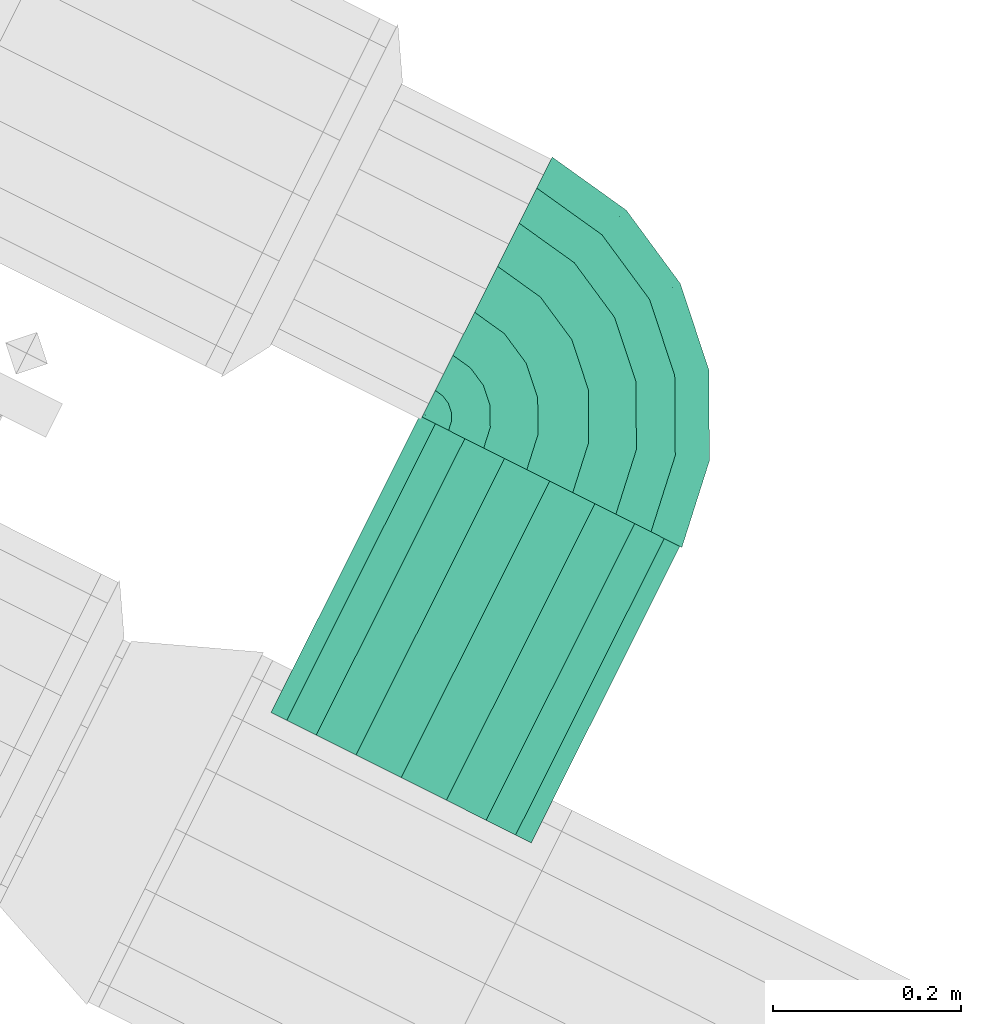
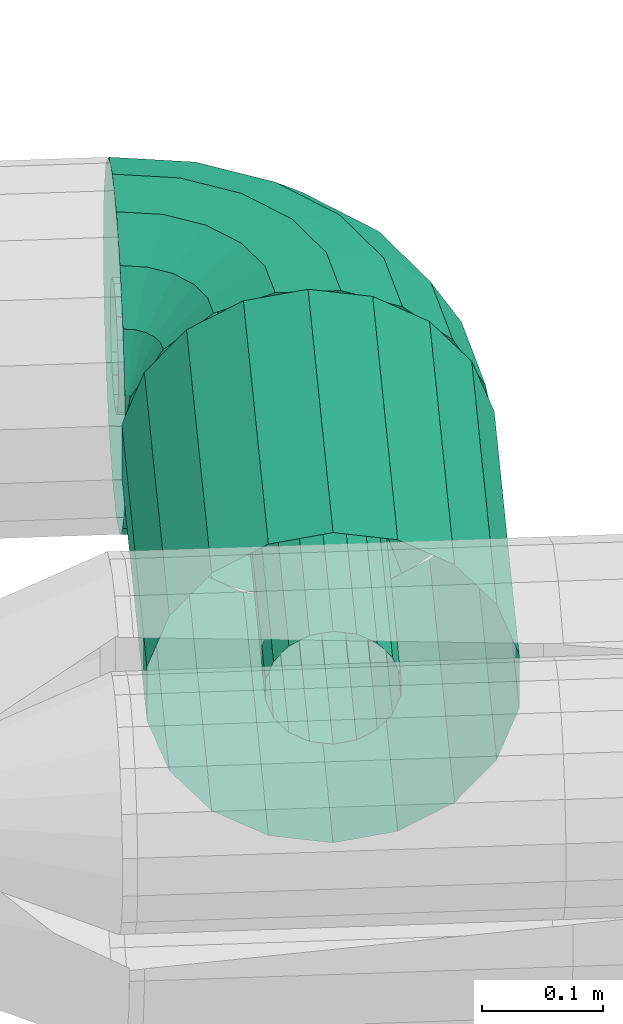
# One storey, part 32 of 152: 2 flow segments.
"""IFC2X3 building model written with IfcOpenShell, lengths in metres."""

from ifc_helpers import new_model, si_unit, derived_unit, direction, frame, origin, place, context, subcontext, project, spatial, face_set, surface_model, source, transform, mapped, material, type_object, type_shapes, element, save


model = new_model("IFC2X3")

# Units and contexts
model_context = context("Model", 3, precision=5.2338327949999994e-05, world=origin(), true_north=direction((0.0, 1.0)))
body_context = subcontext(model_context, "Body", "Model", "MODEL_VIEW")
ifc_project = project(units=[si_unit("LENGTHUNIT", "METRE"), si_unit("AREAUNIT", "SQUARE_METRE"), si_unit("VOLUMEUNIT", "CUBIC_METRE"), si_unit("MASSUNIT", "GRAM", prefix="KILO"), si_unit("PLANEANGLEUNIT", "RADIAN"), derived_unit("THERMALTRANSMITTANCEUNIT", [(si_unit("MASSUNIT", "GRAM", prefix="KILO"), 1), (si_unit("THERMODYNAMICTEMPERATUREUNIT", "KELVIN"), -1), (si_unit("TIMEUNIT", "SECOND"), -3)])], contexts=[model_context])

# Site, building, storey
site_placement = place(None, frame((0.0, 0.0, 0.0), z_axis=(0.0, 0.0, 1.0), x_axis=(0.8939966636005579, -0.4480736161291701, 0.0)))
site = spatial("IfcSite", under=ifc_project, at=site_placement, Name="Default", CompositionType="ELEMENT")
building_placement = place(site_placement, origin())
building = spatial("IfcBuilding", under=site, at=building_placement, CompositionType="ELEMENT")
storey_placement = place(building_placement, frame((0.0, 0.0, 2.7499999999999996)))
storey = spatial("IfcBuildingStorey", under=building, at=storey_placement, Name="1. Obergeschoss", CompositionType="ELEMENT", Elevation=2.7499999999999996)

# Flow segments
ifc_material = material(Name="IfcSurfaceStyle #9317")
distribution_element_type_1 = type_object("IfcDistributionElementType", Name="Rohrbogen 266739:Rohrbogen 266739", material=ifc_material)
shared_shape_1 = source(origin(), body_context, "Body", "SurfaceModel", [
    surface_model("IfcFaceBasedSurfaceModel", [(13.562559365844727, 6.564337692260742, 5.63564089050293), (13.497928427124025, 6.574574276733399, 5.63564089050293), (13.561494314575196, 6.561059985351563, 5.655187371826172), (13.497928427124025, 6.571127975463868, 5.655187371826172), (13.620863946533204, 6.534630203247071, 5.63564089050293), (13.618837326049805, 6.531842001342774, 5.655187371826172), (13.667134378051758, 6.488359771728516, 5.63564089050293), (13.664346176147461, 6.48633373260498, 5.655187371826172), (13.69684186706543, 6.430055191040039, 5.63564089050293), (13.693564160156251, 6.428990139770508, 5.655187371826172), (13.707078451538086, 6.365424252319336, 5.63564089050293), (13.703632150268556, 6.365424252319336, 5.655187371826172), (13.497928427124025, 6.561204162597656, 5.672375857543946), (13.558427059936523, 6.5516216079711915, 5.672375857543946), (13.613003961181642, 6.52381342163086, 5.672375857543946), (13.656317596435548, 6.48050094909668, 5.672375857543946), (13.684125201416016, 6.4259234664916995, 5.672375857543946), (13.693707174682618, 6.365424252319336, 5.672375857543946), (13.553728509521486, 6.537161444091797, 5.6851343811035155), (13.497928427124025, 6.545999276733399, 5.6851343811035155), (13.604067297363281, 6.511512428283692, 5.6851343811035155), (13.644016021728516, 6.4715637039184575, 5.6851343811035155), (13.669665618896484, 6.421225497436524, 5.6851343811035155), (13.678503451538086, 6.365424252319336, 5.6851343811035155), (13.547964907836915, 6.519423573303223, 5.691922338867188), (13.497928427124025, 6.527348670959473, 5.691922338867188), (13.59310517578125, 6.49642381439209, 5.691922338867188), (13.628927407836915, 6.460601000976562, 5.691922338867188), (13.651927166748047, 6.415461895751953, 5.691922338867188), (13.659852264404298, 6.365424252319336, 5.691922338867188), (13.497928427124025, 6.507500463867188, 5.691922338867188), (13.541831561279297, 6.500546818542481, 5.691922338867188), (13.581438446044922, 6.480366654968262, 5.691922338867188), (13.612870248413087, 6.448934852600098, 5.691922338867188), (13.633050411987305, 6.409328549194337, 5.691922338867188), (13.640004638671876, 6.365424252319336, 5.691922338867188), (13.536069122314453, 6.4828083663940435, 5.6851343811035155), (13.497928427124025, 6.488849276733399, 5.6851343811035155), (13.570475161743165, 6.4652774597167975, 5.6851343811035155), (13.597781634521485, 6.437972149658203, 5.6851343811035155), (13.615311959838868, 6.403564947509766, 5.6851343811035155), (13.621353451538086, 6.365424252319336, 5.6851343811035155), (13.531370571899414, 6.468348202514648, 5.672375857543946), (13.497928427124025, 6.473644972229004, 5.672375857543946), (13.561538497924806, 6.45297646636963, 5.672375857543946), (13.585480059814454, 6.42903490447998, 5.672375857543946), (13.600852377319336, 6.398866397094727, 5.672375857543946), (13.606148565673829, 6.365424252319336, 5.672375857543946), (13.528303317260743, 6.458909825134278, 5.655187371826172), (13.497928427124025, 6.463721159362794, 5.655187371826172), (13.555705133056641, 6.444947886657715, 5.655187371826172), (13.577451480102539, 6.423201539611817, 5.655187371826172), (13.591413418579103, 6.3957997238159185, 5.655187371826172), (13.596224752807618, 6.365424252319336, 5.655187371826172), (13.497928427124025, 6.460274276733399, 5.63564089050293), (13.527238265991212, 6.455632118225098, 5.63564089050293), (13.553679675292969, 6.442159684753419, 5.63564089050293), (13.574663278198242, 6.421176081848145, 5.63564089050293), (13.588135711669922, 6.394734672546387, 5.63564089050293), (13.592778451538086, 6.365424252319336, 5.63564089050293), (13.528303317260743, 6.458909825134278, 5.616094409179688), (13.497928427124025, 6.463721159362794, 5.616094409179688), (13.555705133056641, 6.444947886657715, 5.616094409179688), (13.577451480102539, 6.423201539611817, 5.616094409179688), (13.591413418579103, 6.3957997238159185, 5.616094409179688), (13.596224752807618, 6.365424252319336, 5.616094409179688), (13.497928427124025, 6.473644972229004, 5.598905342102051), (13.531370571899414, 6.468348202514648, 5.598905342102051), (13.561538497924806, 6.45297646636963, 5.598905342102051), (13.585480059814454, 6.42903490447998, 5.598905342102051), (13.600852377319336, 6.398866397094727, 5.598905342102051), (13.606148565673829, 6.365424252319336, 5.598905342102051), (13.497928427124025, 6.488849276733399, 5.586147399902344), (13.536069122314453, 6.4828083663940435, 5.586147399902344), (13.570475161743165, 6.4652774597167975, 5.586147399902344), (13.597781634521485, 6.437972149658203, 5.586147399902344), (13.615311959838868, 6.403564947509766, 5.586147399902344), (13.621353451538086, 6.365424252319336, 5.586147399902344), (13.497928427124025, 6.507500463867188, 5.579358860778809), (13.541831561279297, 6.500546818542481, 5.579358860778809), (13.581438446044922, 6.480366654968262, 5.579358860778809), (13.612870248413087, 6.448934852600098, 5.579358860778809), (13.633050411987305, 6.409328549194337, 5.579358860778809), (13.640004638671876, 6.365424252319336, 5.579358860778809), (13.547964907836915, 6.519423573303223, 5.579358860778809), (13.497928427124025, 6.527348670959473, 5.579358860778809), (13.59310517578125, 6.49642381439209, 5.579358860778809), (13.628927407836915, 6.460601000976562, 5.579358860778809), (13.651927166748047, 6.415461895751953, 5.579358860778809), (13.659852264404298, 6.365424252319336, 5.579358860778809), (13.553728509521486, 6.537161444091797, 5.586147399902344), (13.497928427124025, 6.545999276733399, 5.586147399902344), (13.604067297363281, 6.511512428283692, 5.586147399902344), (13.644016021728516, 6.4715637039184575, 5.586147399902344), (13.669665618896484, 6.421225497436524, 5.586147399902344), (13.678503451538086, 6.365424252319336, 5.586147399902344), (13.497928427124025, 6.561204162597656, 5.598905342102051), (13.558427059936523, 6.5516216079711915, 5.598905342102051), (13.613003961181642, 6.52381342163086, 5.598905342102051), (13.656317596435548, 6.48050094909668, 5.598905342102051), (13.684125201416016, 6.4259234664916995, 5.598905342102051), (13.693707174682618, 6.365424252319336, 5.598905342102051), (13.561494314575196, 6.561059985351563, 5.616094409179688), (13.497928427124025, 6.571127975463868, 5.616094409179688), (13.618837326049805, 6.531842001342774, 5.616094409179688), (13.664346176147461, 6.48633373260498, 5.616094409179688), (13.59346096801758, 6.659443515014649, 5.63564089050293), (13.497928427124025, 6.67457456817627, 5.63564089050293), (13.497928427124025, 6.665097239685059, 5.689389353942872), (13.590532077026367, 6.6504301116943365, 5.689389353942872), (13.679641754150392, 6.615532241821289, 5.63564089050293), (13.67407116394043, 6.607864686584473, 5.689389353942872), (13.74803525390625, 6.5471381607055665, 5.63564089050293), (13.740368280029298, 6.541567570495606, 5.689389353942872), (13.791947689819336, 6.460956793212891, 5.63564089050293), (13.782934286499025, 6.458028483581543, 5.689389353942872), (13.807078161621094, 6.365424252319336, 5.63564089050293), (13.797600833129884, 6.365424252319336, 5.689389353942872), (13.58209887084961, 6.624477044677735, 5.736655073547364), (13.497928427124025, 6.637808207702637, 5.736655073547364), (13.658031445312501, 6.585787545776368, 5.736655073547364), (13.718291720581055, 6.525527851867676, 5.736655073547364), (13.756980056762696, 6.449595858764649, 5.736655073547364), (13.77031180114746, 6.365424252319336, 5.736655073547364), (13.497928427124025, 6.595999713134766, 5.771736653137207), (13.569179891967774, 6.58471435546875, 5.771736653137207), (13.633456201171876, 6.5519634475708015, 5.771736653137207), (13.684467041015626, 6.500953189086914, 5.771736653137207), (13.717218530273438, 6.43667629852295, 5.771736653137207), (13.728502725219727, 6.365424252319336, 5.771736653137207), (13.553330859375, 6.535938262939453, 5.790403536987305), (13.497928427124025, 6.544713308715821, 5.790403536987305), (13.603311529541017, 6.510472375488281, 5.790403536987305), (13.642975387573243, 6.470807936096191, 5.790403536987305), (13.668442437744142, 6.420827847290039, 5.790403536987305), (13.677217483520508, 6.365424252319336, 5.790403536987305), (13.536465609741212, 6.48403212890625, 5.790403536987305), (13.497928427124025, 6.490135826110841, 5.790403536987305), (13.571232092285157, 6.46631809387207, 5.790403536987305), (13.598821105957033, 6.4387279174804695, 5.790403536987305), (13.616535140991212, 6.403962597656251, 5.790403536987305), (13.622639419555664, 6.365424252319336, 5.790403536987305), (13.497928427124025, 6.438849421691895, 5.771736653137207), (13.520617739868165, 6.435256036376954, 5.771736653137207), (13.541086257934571, 6.424826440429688, 5.771736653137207), (13.557330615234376, 6.408582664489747, 5.771736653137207), (13.567759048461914, 6.38811414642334, 5.771736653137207), (13.571353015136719, 6.365424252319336, 5.771736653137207), (13.507697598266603, 6.395493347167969, 5.736655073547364), (13.497928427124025, 6.397040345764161, 5.736655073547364), (13.516512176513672, 6.391002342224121, 5.736655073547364), (13.523505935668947, 6.384008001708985, 5.736655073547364), (13.52799635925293, 6.375194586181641, 5.736655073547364), (13.529543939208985, 6.365424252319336, 5.736655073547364), (13.497928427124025, 6.369751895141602, 5.689389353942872), (13.49926555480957, 6.369539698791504, 5.689389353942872), (13.500471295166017, 6.368925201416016, 5.689389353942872), (13.501429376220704, 6.367968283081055, 5.689389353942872), (13.502043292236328, 6.366761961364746, 5.689389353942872), (13.502254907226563, 6.365424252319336, 5.689389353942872), (13.497928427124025, 6.365424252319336, 5.66484666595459), (13.498671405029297, 6.365424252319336, 5.665514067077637), (13.497928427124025, 6.365424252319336, 5.60643511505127), (13.498671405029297, 6.365424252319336, 5.60576713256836), (13.49926555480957, 6.369539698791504, 5.581892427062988), (13.497928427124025, 6.369751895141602, 5.581892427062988), (13.500471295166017, 6.368925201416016, 5.581892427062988), (13.501429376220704, 6.367968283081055, 5.581892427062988), (13.502043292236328, 6.366761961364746, 5.581892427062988), (13.502254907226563, 6.365424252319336, 5.581892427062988), (13.497928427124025, 6.397040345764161, 5.5346267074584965), (13.507697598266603, 6.395493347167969, 5.5346267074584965), (13.516512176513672, 6.391002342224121, 5.5346267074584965), (13.523505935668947, 6.384008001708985, 5.5346267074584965), (13.52799635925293, 6.375194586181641, 5.5346267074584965), (13.529543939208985, 6.365424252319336, 5.5346267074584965), (13.497928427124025, 6.438849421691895, 5.499545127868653), (13.520617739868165, 6.435256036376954, 5.499545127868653), (13.541086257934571, 6.424826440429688, 5.499545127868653), (13.557330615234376, 6.408582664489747, 5.499545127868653), (13.567759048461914, 6.38811414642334, 5.499545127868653), (13.571353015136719, 6.365424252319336, 5.499545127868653), (13.497928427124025, 6.490135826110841, 5.480878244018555), (13.536465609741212, 6.48403212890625, 5.480878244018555), (13.571232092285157, 6.46631809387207, 5.480878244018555), (13.598821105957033, 6.4387279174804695, 5.480878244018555), (13.616535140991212, 6.403962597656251, 5.480878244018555), (13.622639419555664, 6.365424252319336, 5.480878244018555), (13.497928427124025, 6.544713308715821, 5.480878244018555), (13.553330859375, 6.535938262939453, 5.480878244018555), (13.603311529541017, 6.510472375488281, 5.480878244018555), (13.642975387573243, 6.470807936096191, 5.480878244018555), (13.668442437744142, 6.420827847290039, 5.480878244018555), (13.677217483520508, 6.365424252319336, 5.480878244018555), (13.497928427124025, 6.595999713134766, 5.499545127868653), (13.569179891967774, 6.58471435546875, 5.499545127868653), (13.633456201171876, 6.5519634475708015, 5.499545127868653), (13.684467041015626, 6.500953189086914, 5.499545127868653), (13.717218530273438, 6.43667629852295, 5.499545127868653), (13.728502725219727, 6.365424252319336, 5.499545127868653), (13.497928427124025, 6.637808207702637, 5.5346267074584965), (13.58209887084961, 6.624477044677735, 5.5346267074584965), (13.658031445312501, 6.585787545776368, 5.5346267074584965), (13.718291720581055, 6.525527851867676, 5.5346267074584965), (13.756980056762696, 6.449595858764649, 5.5346267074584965), (13.77031180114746, 6.365424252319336, 5.5346267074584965), (13.497928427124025, 6.665097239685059, 5.581892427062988), (13.590532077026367, 6.6504301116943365, 5.581892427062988), (13.67407116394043, 6.607864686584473, 5.581892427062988), (13.740368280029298, 6.541567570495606, 5.581892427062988), (13.782934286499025, 6.458028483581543, 5.581892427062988), (13.797600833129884, 6.365424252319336, 5.581892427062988), (13.693564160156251, 6.428990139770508, 5.616094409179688), (13.703632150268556, 6.365424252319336, 5.616094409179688)], [face_set([[[0, 1, 2]], [[3, 2, 1]], [[4, 0, 2]], [[2, 5, 4]], [[6, 4, 7]], [[5, 7, 4]], [[8, 6, 7]], [[7, 9, 8]], [[10, 8, 9]], [[9, 11, 10]], [[2, 3, 12]], [[12, 13, 2]], [[5, 2, 14]], [[13, 14, 2]], [[7, 5, 15]], [[14, 15, 5]], [[9, 7, 16]], [[15, 16, 7]], [[11, 9, 17]], [[16, 17, 9]], [[13, 12, 18]], [[19, 18, 12]], [[14, 13, 20]], [[18, 20, 13]], [[15, 14, 21]], [[20, 21, 14]], [[16, 15, 21]], [[21, 22, 16]], [[17, 16, 22]], [[22, 23, 17]], [[18, 19, 24]], [[25, 24, 19]], [[20, 18, 24]], [[24, 26, 20]], [[21, 20, 26]], [[26, 27, 21]], [[22, 21, 27]], [[27, 28, 22]], [[23, 22, 28]], [[28, 29, 23]], [[24, 25, 30]], [[30, 31, 24]], [[26, 24, 32]], [[31, 32, 24]], [[27, 26, 32]], [[32, 33, 27]], [[28, 27, 33]], [[33, 34, 28]], [[29, 28, 35]], [[34, 35, 28]], [[31, 30, 36]], [[37, 36, 30]], [[32, 31, 38]], [[36, 38, 31]], [[33, 32, 38]], [[38, 39, 33]], [[34, 33, 40]], [[39, 40, 33]], [[35, 34, 41]], [[40, 41, 34]], [[36, 37, 42]], [[43, 42, 37]], [[38, 36, 44]], [[42, 44, 36]], [[39, 38, 45]], [[44, 45, 38]], [[40, 39, 46]], [[45, 46, 39]], [[41, 40, 47]], [[46, 47, 40]], [[42, 43, 48]], [[49, 48, 43]], [[44, 42, 48]], [[48, 50, 44]], [[45, 44, 50]], [[50, 51, 45]], [[46, 45, 51]], [[51, 52, 46]], [[47, 46, 52]], [[52, 53, 47]], [[48, 49, 54]], [[54, 55, 48]], [[50, 48, 55]], [[55, 56, 50]], [[51, 50, 56]], [[56, 57, 51]], [[52, 51, 57]], [[57, 58, 52]], [[53, 52, 58]], [[58, 59, 53]], [[55, 54, 60]], [[61, 60, 54]], [[56, 55, 60]], [[60, 62, 56]], [[57, 56, 63]], [[62, 63, 56]], [[58, 57, 64]], [[63, 64, 57]], [[59, 58, 65]], [[64, 65, 58]], [[60, 61, 66]], [[66, 67, 60]], [[62, 60, 68]], [[67, 68, 60]], [[63, 62, 69]], [[68, 69, 62]], [[64, 63, 69]], [[69, 70, 64]], [[65, 64, 71]], [[70, 71, 64]], [[67, 66, 72]], [[72, 73, 67]], [[68, 67, 73]], [[73, 74, 68]], [[69, 68, 75]], [[74, 75, 68]], [[70, 69, 75]], [[75, 76, 70]], [[71, 70, 77]], [[76, 77, 70]], [[73, 72, 78]], [[78, 79, 73]], [[74, 73, 79]], [[79, 80, 74]], [[75, 74, 81]], [[80, 81, 74]], [[76, 75, 81]], [[81, 82, 76]], [[77, 76, 82]], [[82, 83, 77]], [[79, 78, 84]], [[85, 84, 78]], [[80, 79, 84]], [[84, 86, 80]], [[81, 80, 87]], [[86, 87, 80]], [[82, 81, 88]], [[87, 88, 81]], [[83, 82, 88]], [[88, 89, 83]], [[84, 85, 90]], [[91, 90, 85]], [[86, 84, 92]], [[90, 92, 84]], [[87, 86, 93]], [[92, 93, 86]], [[88, 87, 94]], [[93, 94, 87]], [[89, 88, 95]], [[94, 95, 88]], [[90, 91, 96]], [[96, 97, 90]], [[92, 90, 97]], [[97, 98, 92]], [[93, 92, 98]], [[98, 99, 93]], [[94, 93, 100]], [[99, 100, 93]], [[95, 94, 101]], [[100, 101, 94]], [[97, 96, 102]], [[103, 102, 96]], [[98, 97, 102]], [[102, 104, 98]], [[99, 98, 104]], [[104, 105, 99]], [[102, 103, 1]], [[1, 0, 102]], [[104, 102, 4]], [[0, 4, 102]], [[105, 104, 6]], [[4, 6, 104]], [[106, 107, 108]], [[108, 109, 106]], [[110, 106, 111]], [[109, 111, 106]], [[112, 110, 113]], [[111, 113, 110]], [[114, 112, 113]], [[113, 115, 114]], [[116, 114, 115]], [[115, 117, 116]], [[109, 108, 118]], [[119, 118, 108]], [[111, 109, 120]], [[118, 120, 109]], [[113, 111, 120]], [[120, 121, 113]], [[115, 113, 121]], [[121, 122, 115]], [[117, 115, 122]], [[122, 123, 117]], [[118, 119, 124]], [[124, 125, 118]], [[120, 118, 125]], [[125, 126, 120]], [[121, 120, 126]], [[126, 127, 121]], [[122, 121, 127]], [[127, 128, 122]], [[123, 122, 128]], [[128, 129, 123]], [[125, 124, 130]], [[131, 130, 124]], [[126, 125, 132]], [[130, 132, 125]], [[127, 126, 132]], [[132, 133, 127]], [[128, 127, 133]], [[133, 134, 128]], [[129, 128, 135]], [[134, 135, 128]], [[130, 131, 136]], [[137, 136, 131]], [[132, 130, 136]], [[136, 138, 132]], [[133, 132, 138]], [[138, 139, 133]], [[134, 133, 139]], [[139, 140, 134]], [[135, 134, 140]], [[140, 141, 135]], [[136, 137, 142]], [[142, 143, 136]], [[138, 136, 143]], [[143, 144, 138]], [[139, 138, 144]], [[144, 145, 139]], [[140, 139, 145]], [[145, 146, 140]], [[141, 140, 146]], [[146, 147, 141]], [[143, 142, 148]], [[149, 148, 142]], [[144, 143, 150]], [[148, 150, 143]], [[145, 144, 151]], [[150, 151, 144]], [[146, 145, 151]], [[151, 152, 146]], [[147, 146, 152]], [[152, 153, 147]], [[148, 149, 154]], [[154, 155, 148]], [[150, 148, 156]], [[155, 156, 148]], [[151, 150, 156]], [[156, 157, 151]], [[152, 151, 157]], [[157, 158, 152]], [[153, 152, 158]], [[158, 159, 153]], [[160, 155, 161]], [[160, 161, 154]], [[155, 154, 161]], [[156, 155, 160]], [[157, 156, 160]], [[158, 157, 160]], [[159, 158, 160]], [[162, 163, 164]], [[165, 164, 163]], [[163, 162, 165]], [[164, 166, 162]], [[162, 166, 167]], [[167, 168, 162]], [[168, 169, 162]], [[164, 165, 170]], [[170, 171, 164]], [[166, 164, 171]], [[171, 172, 166]], [[167, 166, 173]], [[172, 173, 166]], [[168, 167, 174]], [[173, 174, 167]], [[169, 168, 175]], [[174, 175, 168]], [[171, 170, 176]], [[176, 177, 171]], [[172, 171, 177]], [[177, 178, 172]], [[173, 172, 179]], [[178, 179, 172]], [[174, 173, 180]], [[179, 180, 173]], [[175, 174, 180]], [[180, 181, 175]], [[177, 176, 182]], [[182, 183, 177]], [[178, 177, 184]], [[183, 184, 177]], [[179, 178, 184]], [[184, 185, 179]], [[180, 179, 186]], [[185, 186, 179]], [[181, 180, 186]], [[186, 187, 181]], [[183, 182, 188]], [[188, 189, 183]], [[184, 183, 190]], [[189, 190, 183]], [[185, 184, 191]], [[190, 191, 184]], [[186, 185, 192]], [[191, 192, 185]], [[187, 186, 193]], [[192, 193, 186]], [[189, 188, 194]], [[194, 195, 189]], [[190, 189, 195]], [[195, 196, 190]], [[191, 190, 197]], [[196, 197, 190]], [[192, 191, 198]], [[197, 198, 191]], [[193, 192, 198]], [[198, 199, 193]], [[195, 194, 200]], [[200, 201, 195]], [[196, 195, 202]], [[201, 202, 195]], [[197, 196, 203]], [[202, 203, 196]], [[198, 197, 204]], [[203, 204, 197]], [[199, 198, 205]], [[204, 205, 198]], [[201, 200, 206]], [[206, 207, 201]], [[202, 201, 208]], [[207, 208, 201]], [[203, 202, 208]], [[208, 209, 203]], [[204, 203, 210]], [[209, 210, 203]], [[205, 204, 211]], [[210, 211, 204]], [[207, 206, 107]], [[107, 106, 207]], [[208, 207, 110]], [[106, 110, 207]], [[209, 208, 110]], [[110, 112, 209]], [[210, 209, 114]], [[112, 114, 209]], [[211, 210, 116]], [[114, 116, 210]], [[100, 99, 212]], [[105, 212, 99]], [[101, 100, 213]], [[212, 213, 100]], [[212, 105, 6]], [[6, 8, 212]], [[213, 212, 8]], [[8, 10, 213]]])]),
])
type_shapes(distribution_element_type_1, [shared_shape_1])
flow_segment_1_placement = place(storey_placement, frame((0.0, 0.0, -2.7499999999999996)))
element("IfcFlowSegment", 1, at=flow_segment_1_placement, inside=storey, type_object=distribution_element_type_1, material=ifc_material, Name="Rohrbogen", ObjectType="Rohrbogen", context=body_context, shape_type="MappedRepresentation", body=[
    mapped(shared_shape_1, transform((0.0, 0.0, 0.0), scale=1.0)),
])
distribution_element_type_2 = type_object("IfcDistributionElementType", Name="Stahlrohr nach DIN 2448 266762:Stahlrohr nach DIN 2448 266762", material=ifc_material)
shared_shape_2 = source(origin(), body_context, "Body", "SurfaceModel", [
    surface_model("IfcFaceBasedSurfaceModel", [(13.649928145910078, 6.012787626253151, 5.578490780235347), (13.630381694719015, 6.012787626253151, 5.581937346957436), (13.630381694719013, 6.365424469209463, 5.581937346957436), (13.649928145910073, 6.365424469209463, 5.578490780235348), (13.613192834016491, 6.012787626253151, 5.5918613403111), (13.61319283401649, 6.365424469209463, 5.591861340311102), (13.600434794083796, 6.012787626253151, 5.607065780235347), (13.60043479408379, 6.365424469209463, 5.6070657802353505), (13.593646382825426, 6.012787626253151, 5.6257167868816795), (13.593646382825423, 6.365424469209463, 5.6257167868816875), (13.593646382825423, 6.012787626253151, 5.6455647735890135), (13.593646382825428, 6.365424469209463, 5.645564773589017), (13.600434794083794, 6.012787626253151, 5.66421578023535), (13.600434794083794, 6.365424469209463, 5.66421578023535), (13.61319283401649, 6.012787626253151, 5.679420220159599), (13.61319283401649, 6.365424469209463, 5.6794202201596), (13.630381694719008, 6.012787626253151, 5.689344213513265), (13.630381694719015, 6.365424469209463, 5.689344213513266), (13.64992814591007, 6.012787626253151, 5.692790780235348), (13.649928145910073, 6.365424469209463, 5.692790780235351), (13.669474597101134, 6.012787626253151, 5.689344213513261), (13.669474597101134, 6.365424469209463, 5.689344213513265), (13.686663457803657, 6.012787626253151, 5.679420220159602), (13.686663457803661, 6.365424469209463, 5.679420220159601), (13.699421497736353, 6.012787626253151, 5.664215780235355), (13.699421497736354, 6.365424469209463, 5.664215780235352), (13.70620990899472, 6.012787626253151, 5.6455647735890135), (13.70620990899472, 6.365424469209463, 5.645564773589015), (13.706209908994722, 6.012787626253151, 5.625716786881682), (13.706209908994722, 6.365424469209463, 5.625716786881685), (13.699421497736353, 6.012787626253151, 5.60706578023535), (13.699421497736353, 6.365424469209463, 5.607065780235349), (13.686663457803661, 6.012787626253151, 5.591861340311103), (13.686663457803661, 6.365424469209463, 5.591861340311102), (13.669474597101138, 6.012787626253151, 5.5819373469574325), (13.669474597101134, 6.365424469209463, 5.581937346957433), (13.64992814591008, 6.012787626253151, 5.478490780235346), (13.59617968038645, 6.012787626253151, 5.487968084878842), (13.596179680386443, 6.365424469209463, 5.487968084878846), (13.64992814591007, 6.365424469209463, 5.47849078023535), (13.54891407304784, 6.012787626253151, 5.515256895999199), (13.548914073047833, 6.365424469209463, 5.5152568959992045), (13.51383225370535, 6.012787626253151, 5.557065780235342), (13.513832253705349, 6.365424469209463, 5.557065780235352), (13.495165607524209, 6.012787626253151, 5.608351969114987), (13.495165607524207, 6.365424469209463, 5.6083519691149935), (13.495165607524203, 6.012787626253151, 5.662929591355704), (13.495165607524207, 6.365424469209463, 5.662929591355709), (13.513832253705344, 6.012787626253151, 5.714215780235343), (13.513832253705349, 6.365424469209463, 5.714215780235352), (13.548914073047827, 6.012787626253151, 5.756024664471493), (13.548914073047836, 6.365424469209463, 5.756024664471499), (13.596179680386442, 6.012787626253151, 5.783313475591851), (13.596179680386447, 6.365424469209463, 5.783313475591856), (13.649928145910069, 6.012787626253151, 5.792790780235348), (13.649928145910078, 6.365424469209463, 5.792790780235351), (13.7036766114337, 6.012787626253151, 5.783313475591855), (13.703676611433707, 6.365424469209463, 5.783313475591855), (13.75094221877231, 6.012787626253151, 5.756024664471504), (13.750942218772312, 6.365424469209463, 5.756024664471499), (13.786024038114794, 6.012787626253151, 5.714215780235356), (13.7860240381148, 6.365424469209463, 5.71421578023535), (13.804690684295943, 6.012787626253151, 5.662929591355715), (13.804690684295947, 6.365424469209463, 5.662929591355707), (13.804690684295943, 6.012787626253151, 5.608351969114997), (13.804690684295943, 6.365424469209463, 5.608351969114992), (13.786024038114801, 6.012787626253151, 5.557065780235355), (13.7860240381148, 6.365424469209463, 5.557065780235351), (13.750942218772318, 6.012787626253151, 5.515256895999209), (13.750942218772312, 6.365424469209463, 5.515256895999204), (13.70367661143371, 6.012787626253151, 5.487968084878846), (13.703676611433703, 6.365424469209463, 5.487968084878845)], [face_set([[[0, 1, 2, 3]], [[1, 4, 5, 2]], [[4, 6, 7, 5]], [[6, 8, 9, 7]], [[8, 10, 11, 9]], [[10, 12, 13, 11]], [[12, 14, 15, 13]], [[14, 16, 17, 15]], [[16, 18, 19, 17]], [[18, 20, 21, 19]], [[20, 22, 23, 21]], [[22, 24, 25, 23]], [[24, 26, 27, 25]], [[26, 28, 29, 27]], [[28, 30, 31, 29]], [[30, 32, 33, 31]], [[32, 34, 35, 33]], [[34, 0, 3, 35]], [[36, 37, 38, 39]], [[37, 40, 41, 38]], [[40, 42, 43, 41]], [[42, 44, 45, 43]], [[44, 46, 47, 45]], [[46, 48, 49, 47]], [[48, 50, 51, 49]], [[50, 52, 53, 51]], [[52, 54, 55, 53]], [[54, 56, 57, 55]], [[56, 58, 59, 57]], [[58, 60, 61, 59]], [[60, 62, 63, 61]], [[62, 64, 65, 63]], [[64, 66, 67, 65]], [[66, 68, 69, 67]], [[68, 70, 71, 69]], [[70, 36, 39, 71]]])]),
])
type_shapes(distribution_element_type_2, [shared_shape_2])
flow_segment_2_placement = place(storey_placement, frame((0.0, 0.0, -2.7499999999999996)))
element("IfcFlowSegment", 2, at=flow_segment_2_placement, inside=storey, type_object=distribution_element_type_2, material=ifc_material, Name="Stahlrohr nach DIN 2448", ObjectType="Stahlrohr nach DIN 2448", context=body_context, shape_type="MappedRepresentation", body=[
    mapped(shared_shape_2, transform((0.0, 0.0, 0.0), scale=1.0)),
])

save(model, "model.ifc")
